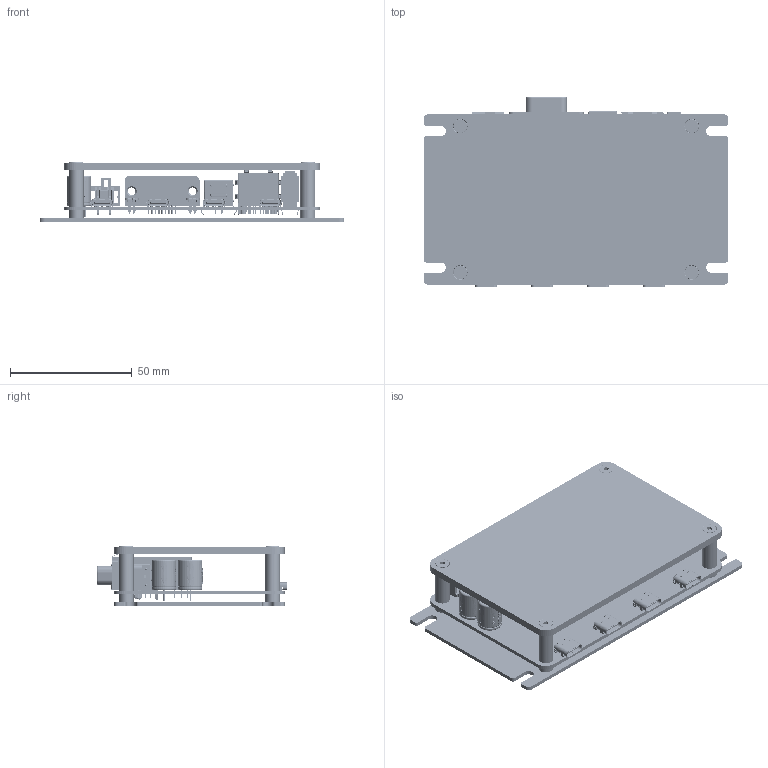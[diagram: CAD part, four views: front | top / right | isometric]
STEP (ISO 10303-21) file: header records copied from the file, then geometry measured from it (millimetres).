
FILE_DESCRIPTION(('Open CASCADE Model'),'2;1');
FILE_NAME('Open CASCADE Shape Model','2025-02-19T16:39:40',('Author'),( 'Open CASCADE'),'Open CASCADE STEP processor 6.8','Open CASCADE 6.8' ,'Unknown');
FILE_SCHEMA(('AUTOMOTIVE_DESIGN { 1 0 10303 214 1 1 1 1 }'));
Products named in the file (1): PCB
Bounding box: 125 x 78.02 x 24.29 mm (x, y, z)
Volume: 52241 mm3; surface area: 81205.9 mm2
Topology: 197 solids, 2907 shells, 8893 faces, 31013 edges, 25138 vertices
Faces by surface type: plane 5972, cylinder 2162, bspline 458, cone 147, torus 136, sphere 18
Full cylindrical faces by diameter (mm): 0.65 x8, 0.888 x4, 0.9 x8, 0.95 x12, 1 x3, 1.09 x9, 1.1 x4, 1.2 x9, 1.57 x2, 1.6 x2, 1.78 x4, 2.33 x2, 2.38 x4, 2.459 x4, 2.8 x2, 3.121 x2, 3.2 x2, 3.26 x2, 4 x8, 4.2 x8, 4.3 x4, 6 x4
Entity records: 384624 total; most frequent: CARTESIAN_POINT 100757, DIRECTION 51449, ORIENTED_EDGE 46692, EDGE_CURVE 30995, VERTEX_POINT 25138, LINE 21849, VECTOR 21849, AXIS2_PLACEMENT_3D 14800
